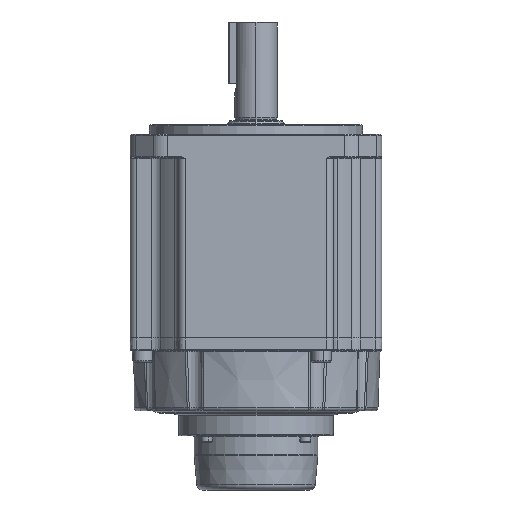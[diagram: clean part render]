
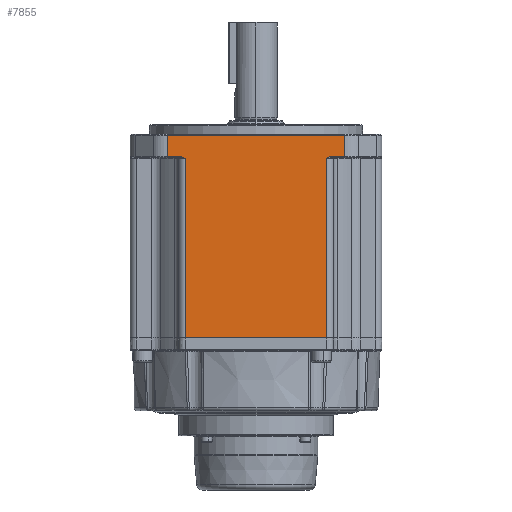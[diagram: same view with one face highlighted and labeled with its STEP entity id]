
A CAD part, front view. The second image highlights one B-rep face of the part: STEP entity #7855.
In plain terms, the highlighted planar face has unit normal (0, -1, 0).
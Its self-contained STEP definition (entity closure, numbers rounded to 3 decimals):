
#2132 = VECTOR ( 'NONE', #41033, 1000. ) ;
#2138 = DIRECTION ( 'NONE',  ( 0., 0., -1. ) ) ;
#2510 = CARTESIAN_POINT ( 'NONE',  ( -36.401, -65., -110.1 ) ) ;
#2941 = CARTESIAN_POINT ( 'NONE',  ( 37.903, -65., -16.739 ) ) ;
#4153 = DIRECTION ( 'NONE',  ( -1., 0., 0. ) ) ;
#5896 = ORIENTED_EDGE ( 'NONE', *, *, #86116, .T. ) ;
#7831 = VERTEX_POINT ( 'NONE', #57642 ) ;
#7855 = ADVANCED_FACE ( 'NONE', ( #11595 ), #12152, .T. ) ;
#11595 = FACE_OUTER_BOUND ( 'NONE', #114337, .T. ) ;
#11707 = CARTESIAN_POINT ( 'NONE',  ( 37.239, -65., -17.023 ) ) ;
#11937 = B_SPLINE_CURVE_WITH_KNOTS ( 'NONE', 3,
 ( #100152, #47847, #11707, #2941, #109499, #100735, #56573, #57171 ),
 .UNSPECIFIED., .F., .F.,
 ( 4, 2, 2, 4 ),
 ( 0., 0.001, 0.002, 0.003 ),
 .UNSPECIFIED. ) ;
#12152 = PLANE ( 'NONE',  #49642 ) ;
#16097 = CARTESIAN_POINT ( 'NONE',  ( 45.858, -65., -5.5 ) ) ;
#16131 = CARTESIAN_POINT ( 'NONE',  ( -38.601, -65., -16.537 ) ) ;
#18424 = EDGE_CURVE ( 'NONE', #55616, #73967, #54785, .T. ) ;
#18871 = VECTOR ( 'NONE', #96841, 1000. ) ;
#22136 = CARTESIAN_POINT ( 'NONE',  ( -45.858, -65., -5.5 ) ) ;
#22889 = LINE ( 'NONE', #84696, #50322 ) ;
#24331 = CARTESIAN_POINT ( 'NONE',  ( -45.858, -65., -5.5 ) ) ;
#24828 = CARTESIAN_POINT ( 'NONE',  ( -36.82, -65., -17.262 ) ) ;
#26660 = ORIENTED_EDGE ( 'NONE', *, *, #62218, .F. ) ;
#27584 = EDGE_CURVE ( 'NONE', #73967, #115074, #110673, .T. ) ;
#32473 = CARTESIAN_POINT ( 'NONE',  ( 50., -65., -312.548 ) ) ;
#34703 = CARTESIAN_POINT ( 'NONE',  ( -36.401, -65., -17.5 ) ) ;
#36243 = LINE ( 'NONE', #87064, #18871 ) ;
#40093 = VERTEX_POINT ( 'NONE', #2510 ) ;
#41033 = DIRECTION ( 'NONE',  ( 1., 0., 0. ) ) ;
#41411 = LINE ( 'NONE', #51929, #54656 ) ;
#41794 = DIRECTION ( 'NONE',  ( 0., -1., 0. ) ) ;
#43278 = EDGE_CURVE ( 'NONE', #55849, #55616, #41411, .T. ) ;
#43501 = CARTESIAN_POINT ( 'NONE',  ( -38.133, -65., -16.656 ) ) ;
#44096 = CARTESIAN_POINT ( 'NONE',  ( -37.239, -65., -17.023 ) ) ;
#46453 = CARTESIAN_POINT ( 'NONE',  ( -45.858, -65., -312.548 ) ) ;
#47847 = CARTESIAN_POINT ( 'NONE',  ( 36.819, -65., -17.262 ) ) ;
#49642 = AXIS2_PLACEMENT_3D ( 'NONE', #32473, #41794, #77964 ) ;
#50301 = VECTOR ( 'NONE', #64734, 1000. ) ;
#50322 = VECTOR ( 'NONE', #93420, 1000. ) ;
#51929 = CARTESIAN_POINT ( 'NONE',  ( 50., -65., -16.5 ) ) ;
#52304 = LINE ( 'NONE', #46453, #81586 ) ;
#52417 = EDGE_CURVE ( 'NONE', #82984, #89057, #61362, .T. ) ;
#52557 = DIRECTION ( 'NONE',  ( 1., 0., 0. ) ) ;
#54656 = VECTOR ( 'NONE', #96101, 1000. ) ;
#54785 = LINE ( 'NONE', #100681, #50301 ) ;
#55616 = VERTEX_POINT ( 'NONE', #71272 ) ;
#55849 = VERTEX_POINT ( 'NONE', #103731 ) ;
#56573 = CARTESIAN_POINT ( 'NONE',  ( 38.84, -65., -16.5 ) ) ;
#57171 = CARTESIAN_POINT ( 'NONE',  ( 39.084, -65., -16.5 ) ) ;
#57642 = CARTESIAN_POINT ( 'NONE',  ( 36.401, -65., -17.5 ) ) ;
#57722 = CARTESIAN_POINT ( 'NONE',  ( -39.084, -65., -16.5 ) ) ;
#60205 = EDGE_CURVE ( 'NONE', #78850, #7831, #22889, .T. ) ;
#60340 = LINE ( 'NONE', #96300, #2132 ) ;
#60439 = ORIENTED_EDGE ( 'NONE', *, *, #65942, .T. ) ;
#61362 = LINE ( 'NONE', #96724, #69888 ) ;
#62041 = CARTESIAN_POINT ( 'NONE',  ( -36.401, -65., -17.5 ) ) ;
#62218 = EDGE_CURVE ( 'NONE', #40093, #64732, #36243, .T. ) ;
#64732 = VERTEX_POINT ( 'NONE', #62041 ) ;
#64734 = DIRECTION ( 'NONE',  ( 0., 0., 1. ) ) ;
#65942 = EDGE_CURVE ( 'NONE', #89057, #64732, #85233, .T. ) ;
#69888 = VECTOR ( 'NONE', #52557, 1000. ) ;
#71272 = CARTESIAN_POINT ( 'NONE',  ( 45.858, -65., -16.5 ) ) ;
#72372 = ORIENTED_EDGE ( 'NONE', *, *, #60205, .T. ) ;
#73967 = VERTEX_POINT ( 'NONE', #16097 ) ;
#77964 = DIRECTION ( 'NONE',  ( 1., 0., 0. ) ) ;
#78850 = VERTEX_POINT ( 'NONE', #107137 ) ;
#81586 = VECTOR ( 'NONE', #2138, 1000. ) ;
#82984 = VERTEX_POINT ( 'NONE', #97710 ) ;
#84696 = CARTESIAN_POINT ( 'NONE',  ( 36.401, -65., -128.7 ) ) ;
#85233 = B_SPLINE_CURVE_WITH_KNOTS ( 'NONE', 3,
 ( #105773, #104071, #16131, #43501, #114526, #44096, #24828, #34703 ),
 .UNSPECIFIED., .F., .F.,
 ( 4, 2, 2, 4 ),
 ( 0., 0.001, 0.001, 0.003 ),
 .UNSPECIFIED. ) ;
#86116 = EDGE_CURVE ( 'NONE', #115074, #82984, #52304, .T. ) ;
#87064 = CARTESIAN_POINT ( 'NONE',  ( -36.401, -65., -128.7 ) ) ;
#89057 = VERTEX_POINT ( 'NONE', #57722 ) ;
#90526 = ORIENTED_EDGE ( 'NONE', *, *, #52417, .T. ) ;
#93420 = DIRECTION ( 'NONE',  ( 0., 0., 1. ) ) ;
#94525 = ORIENTED_EDGE ( 'NONE', *, *, #27584, .T. ) ;
#96101 = DIRECTION ( 'NONE',  ( 1., 0., 0. ) ) ;
#96300 = CARTESIAN_POINT ( 'NONE',  ( 50., -65., -110.1 ) ) ;
#96724 = CARTESIAN_POINT ( 'NONE',  ( 50., -65., -16.5 ) ) ;
#96841 = DIRECTION ( 'NONE',  ( 0., 0., 1. ) ) ;
#97710 = CARTESIAN_POINT ( 'NONE',  ( -45.858, -65., -16.5 ) ) ;
#99061 = ORIENTED_EDGE ( 'NONE', *, *, #43278, .T. ) ;
#100152 = CARTESIAN_POINT ( 'NONE',  ( 36.401, -65., -17.5 ) ) ;
#100635 = EDGE_CURVE ( 'NONE', #40093, #78850, #60340, .T. ) ;
#100681 = CARTESIAN_POINT ( 'NONE',  ( 45.858, -65., -312.548 ) ) ;
#100735 = CARTESIAN_POINT ( 'NONE',  ( 38.601, -65., -16.537 ) ) ;
#103731 = CARTESIAN_POINT ( 'NONE',  ( 39.084, -65., -16.5 ) ) ;
#104071 = CARTESIAN_POINT ( 'NONE',  ( -38.84, -65., -16.5 ) ) ;
#105571 = ORIENTED_EDGE ( 'NONE', *, *, #109316, .T. ) ;
#105773 = CARTESIAN_POINT ( 'NONE',  ( -39.084, -65., -16.5 ) ) ;
#107137 = CARTESIAN_POINT ( 'NONE',  ( 36.401, -65., -110.1 ) ) ;
#109316 = EDGE_CURVE ( 'NONE', #7831, #55849, #11937, .T. ) ;
#109499 = CARTESIAN_POINT ( 'NONE',  ( 38.133, -65., -16.656 ) ) ;
#109925 = ORIENTED_EDGE ( 'NONE', *, *, #18424, .T. ) ;
#110274 = ORIENTED_EDGE ( 'NONE', *, *, #100635, .T. ) ;
#110673 = LINE ( 'NONE', #22136, #112050 ) ;
#112050 = VECTOR ( 'NONE', #4153, 1000. ) ;
#114337 = EDGE_LOOP ( 'NONE', ( #26660, #110274, #72372, #105571, #99061, #109925, #94525, #5896, #90526, #60439 ) ) ;
#114526 = CARTESIAN_POINT ( 'NONE',  ( -37.903, -65., -16.739 ) ) ;
#115074 = VERTEX_POINT ( 'NONE', #24331 ) ;
